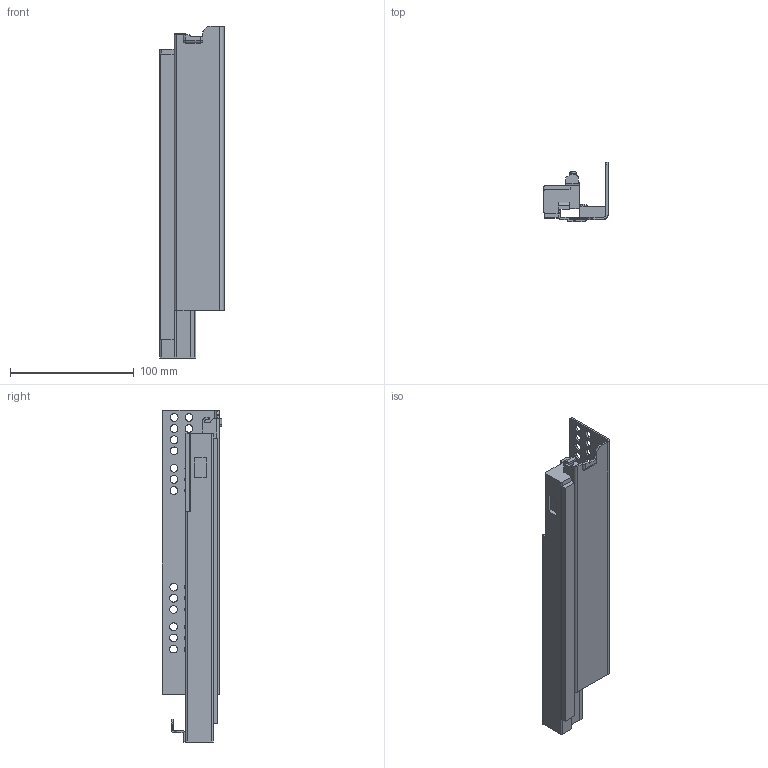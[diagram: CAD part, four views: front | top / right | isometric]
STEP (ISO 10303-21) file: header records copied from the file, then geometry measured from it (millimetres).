
FILE_DESCRIPTION (( 'STEP AP203' ), '1' );
FILE_NAME ('TS10270H-R-DTC3D-close.STEP', '2021-07-09T02:56:21', ( 'df' ), ( 'Microsoft' ), 'SwSTEP 2.0', 'SolidWorks 2018', '' );
FILE_SCHEMA (( 'CONFIG_CONTROL_DESIGN' ));
Length unit declared in the file: millimetre
Products named in the file (1): TS10270H-R-DTC3D-close
Bounding box: 51.73 x 48 x 268 mm (x, y, z)
Volume: 214761.6 mm3; surface area: 67288.4 mm2
Topology: 1 solids, 1 shells, 291 faces, 826 edges, 541 vertices
Faces by surface type: plane 119, cylinder 106, bspline 47, torus 15, sphere 4
Entity records: 11270 total; most frequent: CARTESIAN_POINT 3694, ORIENTED_EDGE 1644, DIRECTION 1437, EDGE_CURVE 822, VERTEX_POINT 541, AXIS2_PLACEMENT_3D 486, LINE 465, VECTOR 465
